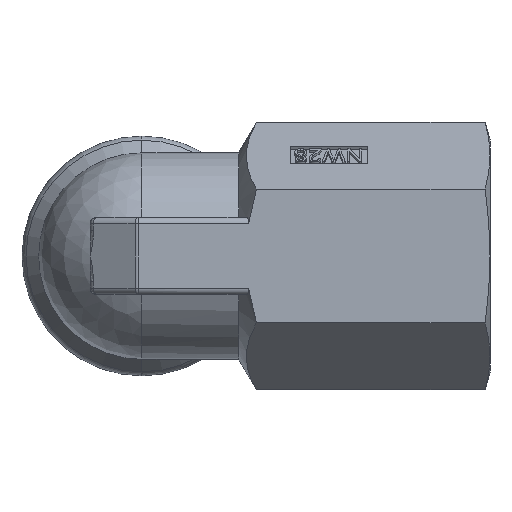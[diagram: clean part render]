
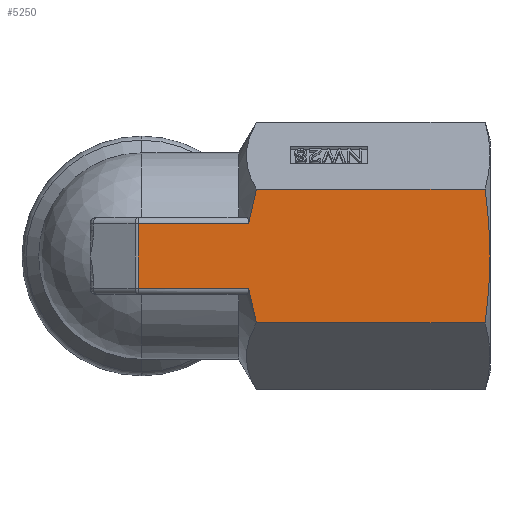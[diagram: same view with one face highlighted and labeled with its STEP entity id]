
A CAD part, left-side view. The second image highlights one B-rep face of the part: STEP entity #5250.
In plain terms, the highlighted planar face has unit normal (-1, 0, 0).
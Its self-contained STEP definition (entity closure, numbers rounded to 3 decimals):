
#55 = CARTESIAN_POINT ( 'NONE',  ( -18., -53.932, -3.461 ) ) ;
#98 = VERTEX_POINT ( 'NONE', #756 ) ;
#282 = CARTESIAN_POINT ( 'NONE',  ( -18., -17.762, -10.392 ) ) ;
#394 = LINE ( 'NONE', #2633, #1034 ) ;
#400 = VECTOR ( 'NONE', #2088, 1000. ) ;
#406 = CARTESIAN_POINT ( 'NONE',  ( -18., -17.762, 10.392 ) ) ;
#563 = CARTESIAN_POINT ( 'NONE',  ( -18., 0.555, -6. ) ) ;
#756 = CARTESIAN_POINT ( 'NONE',  ( -18., -53.254, 10.392 ) ) ;
#809 = CARTESIAN_POINT ( 'NONE',  ( -18., -16.688, -5.907 ) ) ;
#862 = EDGE_CURVE ( 'NONE', #1315, #4139, #5384, .T. ) ;
#887 = LINE ( 'NONE', #4751, #3407 ) ;
#1034 = VECTOR ( 'NONE', #4735, 1000. ) ;
#1112 = ORIENTED_EDGE ( 'NONE', *, *, #2750, .F. ) ;
#1128 = VERTEX_POINT ( 'NONE', #5113 ) ;
#1171 = LINE ( 'NONE', #5705, #3601 ) ;
#1315 = VERTEX_POINT ( 'NONE', #282 ) ;
#1591 = CARTESIAN_POINT ( 'NONE',  ( -18., -53.932, 3.469 ) ) ;
#1595 = CARTESIAN_POINT ( 'NONE',  ( -18., 0.823, 5. ) ) ;
#1644 = CARTESIAN_POINT ( 'NONE',  ( -18., -53.674, -6.928 ) ) ;
#1682 = CARTESIAN_POINT ( 'NONE',  ( -18., -17.507, -9.509 ) ) ;
#1772 = FACE_OUTER_BOUND ( 'NONE', #5103, .T. ) ;
#1773 = CARTESIAN_POINT ( 'NONE',  ( -18., -16.548, -5. ) ) ;
#1786 = EDGE_CURVE ( 'NONE', #1939, #1315, #1171, .T. ) ;
#1939 = VERTEX_POINT ( 'NONE', #4162 ) ;
#2088 = DIRECTION ( 'NONE',  ( 0., 0., -1. ) ) ;
#2103 = CARTESIAN_POINT ( 'NONE',  ( -18., -53.486, 8.663 ) ) ;
#2118 = DIRECTION ( 'NONE',  ( 0., 1., 0. ) ) ;
#2229 = ORIENTED_EDGE ( 'NONE', *, *, #5446, .T. ) ;
#2254 = LINE ( 'NONE', #1595, #4612 ) ;
#2355 = ORIENTED_EDGE ( 'NONE', *, *, #4718, .T. ) ;
#2499 = CARTESIAN_POINT ( 'NONE',  ( -18., -16.548, 5. ) ) ;
#2502 = CARTESIAN_POINT ( 'NONE',  ( -18., -54., 10.392 ) ) ;
#2505 = CARTESIAN_POINT ( 'NONE',  ( -18., -54., 0. ) ) ;
#2544 = B_SPLINE_CURVE_WITH_KNOTS ( 'NONE', 3,
 ( #4550, #3538, #5612, #406 ),
 .UNSPECIFIED., .F., .F.,
 ( 4, 4 ),
 ( 0.034, 0.04 ),
 .UNSPECIFIED. ) ;
#2561 = CARTESIAN_POINT ( 'NONE',  ( -18., -54., 1.735 ) ) ;
#2633 = CARTESIAN_POINT ( 'NONE',  ( -18., -54., -5. ) ) ;
#2750 = EDGE_CURVE ( 'NONE', #4365, #5350, #2544, .T. ) ;
#3001 = ORIENTED_EDGE ( 'NONE', *, *, #1786, .F. ) ;
#3174 = ORIENTED_EDGE ( 'NONE', *, *, #3984, .F. ) ;
#3205 = CARTESIAN_POINT ( 'NONE',  ( -18., -17.762, -10.392 ) ) ;
#3407 = VECTOR ( 'NONE', #6288, 1000. ) ;
#3538 = CARTESIAN_POINT ( 'NONE',  ( -18., -16.831, 6.83 ) ) ;
#3601 = VECTOR ( 'NONE', #4634, 1000. ) ;
#3658 = CARTESIAN_POINT ( 'NONE',  ( -18., -53.254, 10.392 ) ) ;
#3715 = CARTESIAN_POINT ( 'NONE',  ( -18., -17.762, 10.392 ) ) ;
#3885 = CARTESIAN_POINT ( 'NONE',  ( -18., -16.864, -6.811 ) ) ;
#3984 = EDGE_CURVE ( 'NONE', #98, #4062, #5967, .T. ) ;
#4062 = VERTEX_POINT ( 'NONE', #2505 ) ;
#4138 = CARTESIAN_POINT ( 'NONE',  ( -18., -54., 0. ) ) ;
#4139 = VERTEX_POINT ( 'NONE', #6157 ) ;
#4162 = CARTESIAN_POINT ( 'NONE',  ( -18., -53.254, -10.392 ) ) ;
#4263 = CARTESIAN_POINT ( 'NONE',  ( -18., -53.254, -10.392 ) ) ;
#4365 = VERTEX_POINT ( 'NONE', #2499 ) ;
#4550 = CARTESIAN_POINT ( 'NONE',  ( -18., -16.548, 5. ) ) ;
#4600 = ORIENTED_EDGE ( 'NONE', *, *, #862, .F. ) ;
#4612 = VECTOR ( 'NONE', #2118, 1000. ) ;
#4634 = DIRECTION ( 'NONE',  ( 0., 1., 0. ) ) ;
#4655 = EDGE_CURVE ( 'NONE', #98, #5350, #887, .T. ) ;
#4671 = EDGE_CURVE ( 'NONE', #4062, #1939, #5668, .T. ) ;
#4718 = EDGE_CURVE ( 'NONE', #4365, #6570, #2254, .T. ) ;
#4732 = CARTESIAN_POINT ( 'NONE',  ( -18., -53.485, -8.665 ) ) ;
#4735 = DIRECTION ( 'NONE',  ( 0., -1., 0. ) ) ;
#4751 = CARTESIAN_POINT ( 'NONE',  ( -18., -54., 10.392 ) ) ;
#4932 = LINE ( 'NONE', #563, #400 ) ;
#5103 = EDGE_LOOP ( 'NONE', ( #1112, #2355, #2229, #5581, #4600, #3001, #6236, #3174, #5143 ) ) ;
#5113 = CARTESIAN_POINT ( 'NONE',  ( -18., 0.555, -5. ) ) ;
#5143 = ORIENTED_EDGE ( 'NONE', *, *, #4655, .T. ) ;
#5153 = AXIS2_PLACEMENT_3D ( 'NONE', #2502, #5686, #6177 ) ;
#5211 = CARTESIAN_POINT ( 'NONE',  ( -18., -54., -1.73 ) ) ;
#5250 = ADVANCED_FACE ( 'NONE', ( #1772 ), #5656, .F. ) ;
#5350 = VERTEX_POINT ( 'NONE', #3715 ) ;
#5384 = B_SPLINE_CURVE_WITH_KNOTS ( 'NONE', 3,
 ( #3205, #1682, #5419, #3885, #809, #1773 ),
 .UNSPECIFIED., .F., .F.,
 ( 4, 2, 4 ),
 ( 0.019, 0.021, 0.024 ),
 .UNSPECIFIED. ) ;
#5419 = CARTESIAN_POINT ( 'NONE',  ( -18., -17.274, -8.615 ) ) ;
#5446 = EDGE_CURVE ( 'NONE', #6570, #1128, #4932, .T. ) ;
#5570 = EDGE_CURVE ( 'NONE', #1128, #4139, #394, .T. ) ;
#5581 = ORIENTED_EDGE ( 'NONE', *, *, #5570, .T. ) ;
#5612 = CARTESIAN_POINT ( 'NONE',  ( -18., -17.252, 8.623 ) ) ;
#5656 = PLANE ( 'NONE',  #5153 ) ;
#5665 = CARTESIAN_POINT ( 'NONE',  ( -18., 0.555, 5. ) ) ;
#5668 = B_SPLINE_CURVE_WITH_KNOTS ( 'NONE', 3,
 ( #6351, #5211, #55, #1644, #4732, #4263 ),
 .UNSPECIFIED., .F., .F.,
 ( 4, 2, 4 ),
 ( 0.053, 0.058, 0.063 ),
 .UNSPECIFIED. ) ;
#5686 = DIRECTION ( 'NONE',  ( 1., 0., 0. ) ) ;
#5705 = CARTESIAN_POINT ( 'NONE',  ( -18., -54., -10.392 ) ) ;
#5967 = B_SPLINE_CURVE_WITH_KNOTS ( 'NONE', 3,
 ( #3658, #2103, #6147, #1591, #2561, #4138 ),
 .UNSPECIFIED., .F., .F.,
 ( 4, 2, 4 ),
 ( 0.042, 0.047, 0.053 ),
 .UNSPECIFIED. ) ;
#6147 = CARTESIAN_POINT ( 'NONE',  ( -18., -53.674, 6.933 ) ) ;
#6157 = CARTESIAN_POINT ( 'NONE',  ( -18., -16.548, -5. ) ) ;
#6177 = DIRECTION ( 'NONE',  ( 0., 0., -1. ) ) ;
#6236 = ORIENTED_EDGE ( 'NONE', *, *, #4671, .F. ) ;
#6288 = DIRECTION ( 'NONE',  ( 0., 1., 0. ) ) ;
#6351 = CARTESIAN_POINT ( 'NONE',  ( -18., -54., 0. ) ) ;
#6570 = VERTEX_POINT ( 'NONE', #5665 ) ;
